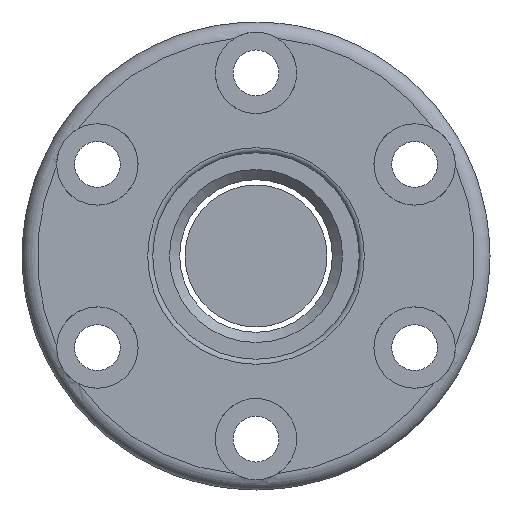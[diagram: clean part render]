
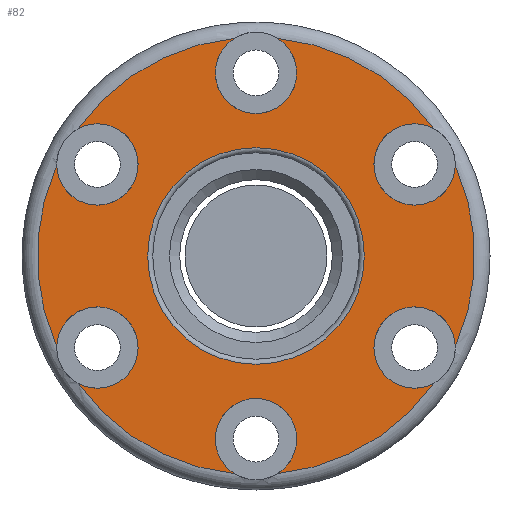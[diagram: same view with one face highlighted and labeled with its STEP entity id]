
A CAD part, front view. The second image highlights one B-rep face of the part: STEP entity #82.
In plain terms, the highlighted planar face has unit normal (0, -1, 0).
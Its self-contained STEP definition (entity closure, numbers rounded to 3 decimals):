
#66=PLANE('',#638);
#82=ADVANCED_FACE('',(#150,#151),#66,.T.);
#150=FACE_BOUND('',#242,.T.);
#151=FACE_BOUND('',#243,.T.);
#242=EDGE_LOOP('',(#334));
#243=EDGE_LOOP('',(#335,#336,#337,#338,#339,#340,#341,#342,#343,#344,#345,
#346));
#334=ORIENTED_EDGE('',*,*,#506,.T.);
#335=ORIENTED_EDGE('',*,*,#507,.F.);
#336=ORIENTED_EDGE('',*,*,#508,.T.);
#337=ORIENTED_EDGE('',*,*,#509,.T.);
#338=ORIENTED_EDGE('',*,*,#510,.T.);
#339=ORIENTED_EDGE('',*,*,#511,.T.);
#340=ORIENTED_EDGE('',*,*,#512,.T.);
#341=ORIENTED_EDGE('',*,*,#513,.F.);
#342=ORIENTED_EDGE('',*,*,#514,.T.);
#343=ORIENTED_EDGE('',*,*,#515,.F.);
#344=ORIENTED_EDGE('',*,*,#516,.T.);
#345=ORIENTED_EDGE('',*,*,#517,.T.);
#346=ORIENTED_EDGE('',*,*,#518,.T.);
#452=VERTEX_POINT('',#933);
#453=VERTEX_POINT('',#935);
#454=VERTEX_POINT('',#936);
#455=VERTEX_POINT('',#938);
#456=VERTEX_POINT('',#940);
#457=VERTEX_POINT('',#942);
#458=VERTEX_POINT('',#944);
#459=VERTEX_POINT('',#946);
#460=VERTEX_POINT('',#948);
#461=VERTEX_POINT('',#950);
#462=VERTEX_POINT('',#952);
#463=VERTEX_POINT('',#954);
#464=VERTEX_POINT('',#956);
#506=EDGE_CURVE('',#452,#452,#566,.T.);
#507=EDGE_CURVE('',#453,#454,#567,.T.);
#508=EDGE_CURVE('',#453,#455,#568,.T.);
#509=EDGE_CURVE('',#455,#456,#569,.T.);
#510=EDGE_CURVE('',#456,#457,#570,.T.);
#511=EDGE_CURVE('',#457,#458,#571,.T.);
#512=EDGE_CURVE('',#458,#459,#572,.T.);
#513=EDGE_CURVE('',#460,#459,#573,.T.);
#514=EDGE_CURVE('',#460,#461,#574,.T.);
#515=EDGE_CURVE('',#462,#461,#575,.T.);
#516=EDGE_CURVE('',#462,#463,#576,.T.);
#517=EDGE_CURVE('',#463,#464,#577,.T.);
#518=EDGE_CURVE('',#464,#454,#578,.T.);
#566=CIRCLE('',#625,10.65);
#567=CIRCLE('',#626,4.);
#568=CIRCLE('',#627,21.5);
#569=CIRCLE('',#628,4.);
#570=CIRCLE('',#629,21.5);
#571=CIRCLE('',#630,4.);
#572=CIRCLE('',#631,21.5);
#573=CIRCLE('',#632,4.);
#574=CIRCLE('',#633,21.5);
#575=CIRCLE('',#634,4.);
#576=CIRCLE('',#635,21.5);
#577=CIRCLE('',#636,4.);
#578=CIRCLE('',#637,21.5);
#625=AXIS2_PLACEMENT_3D('',#932,#739,#740);
#626=AXIS2_PLACEMENT_3D('',#934,#741,#742);
#627=AXIS2_PLACEMENT_3D('',#937,#743,#744);
#628=AXIS2_PLACEMENT_3D('',#939,#745,#746);
#629=AXIS2_PLACEMENT_3D('',#941,#747,#748);
#630=AXIS2_PLACEMENT_3D('',#943,#749,#750);
#631=AXIS2_PLACEMENT_3D('',#945,#751,#752);
#632=AXIS2_PLACEMENT_3D('',#947,#753,#754);
#633=AXIS2_PLACEMENT_3D('',#949,#755,#756);
#634=AXIS2_PLACEMENT_3D('',#951,#757,#758);
#635=AXIS2_PLACEMENT_3D('',#953,#759,#760);
#636=AXIS2_PLACEMENT_3D('',#955,#761,#762);
#637=AXIS2_PLACEMENT_3D('',#957,#763,#764);
#638=AXIS2_PLACEMENT_3D('',#958,#765,#766);
#739=DIRECTION('',(0.,1.,0.));
#740=DIRECTION('',(0.,0.,-1.));
#741=DIRECTION('',(0.,-1.,0.));
#742=DIRECTION('',(-1.,0.,0.));
#743=DIRECTION('',(0.,-1.,0.));
#744=DIRECTION('',(0.,0.,-1.));
#745=DIRECTION('',(0.,1.,0.));
#746=DIRECTION('',(1.,0.,0.));
#747=DIRECTION('',(0.,-1.,0.));
#748=DIRECTION('',(0.,0.,-1.));
#749=DIRECTION('',(0.,1.,0.));
#750=DIRECTION('',(1.,0.,0.));
#751=DIRECTION('',(0.,-1.,0.));
#752=DIRECTION('',(0.,0.,-1.));
#753=DIRECTION('',(0.,-1.,0.));
#754=DIRECTION('',(1.,0.,0.));
#755=DIRECTION('',(0.,-1.,0.));
#756=DIRECTION('',(0.,0.,-1.));
#757=DIRECTION('',(0.,-1.,0.));
#758=DIRECTION('',(1.,0.,0.));
#759=DIRECTION('',(0.,-1.,0.));
#760=DIRECTION('',(0.,0.,-1.));
#761=DIRECTION('',(0.,1.,0.));
#762=DIRECTION('',(-1.,0.,0.));
#763=DIRECTION('',(0.,-1.,0.));
#764=DIRECTION('',(0.,0.,-1.));
#765=DIRECTION('',(0.,-1.,0.));
#766=DIRECTION('',(0.,0.,-1.));
#932=CARTESIAN_POINT('',(0.,0.,0.));
#933=CARTESIAN_POINT('',(0.,0.,-10.65));
#934=CARTESIAN_POINT('',(-15.588,0.,-9.));
#935=CARTESIAN_POINT('',(-17.472,0.,-12.529));
#936=CARTESIAN_POINT('',(-19.586,0.,-8.867));
#937=CARTESIAN_POINT('',(0.,0.,0.));
#938=CARTESIAN_POINT('',(-2.114,0.,-21.396));
#939=CARTESIAN_POINT('',(0.,0.,-18.));
#940=CARTESIAN_POINT('',(2.114,0.,-21.396));
#941=CARTESIAN_POINT('',(0.,0.,0.));
#942=CARTESIAN_POINT('',(17.472,0.,-12.529));
#943=CARTESIAN_POINT('',(15.588,0.,-9.));
#944=CARTESIAN_POINT('',(19.586,0.,-8.867));
#945=CARTESIAN_POINT('',(0.,0.,0.));
#946=CARTESIAN_POINT('',(19.586,0.,8.867));
#947=CARTESIAN_POINT('',(15.588,0.,9.));
#948=CARTESIAN_POINT('',(17.472,0.,12.529));
#949=CARTESIAN_POINT('',(0.,0.,0.));
#950=CARTESIAN_POINT('',(2.114,0.,21.396));
#951=CARTESIAN_POINT('',(0.,0.,18.));
#952=CARTESIAN_POINT('',(-2.114,0.,21.396));
#953=CARTESIAN_POINT('',(0.,0.,0.));
#954=CARTESIAN_POINT('',(-17.472,0.,12.529));
#955=CARTESIAN_POINT('',(-15.588,0.,9.));
#956=CARTESIAN_POINT('',(-19.586,0.,8.867));
#957=CARTESIAN_POINT('',(0.,0.,0.));
#958=CARTESIAN_POINT('',(0.,0.,0.));
